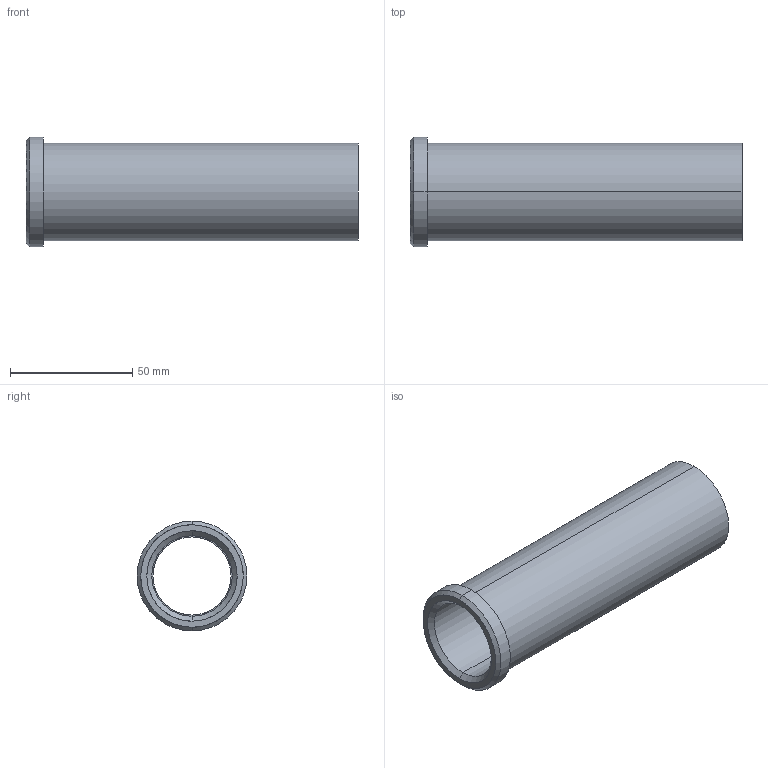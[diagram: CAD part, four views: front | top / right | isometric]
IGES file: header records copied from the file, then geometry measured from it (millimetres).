
Start section: START RECORD GO HERE.
Global section: file name: 353-32X136.igs; native system: DASSAULT SYSTEMES CATIA V5 R20 - www.3ds.com; preprocessor: CATIA Version 5 Release 20 ; author: Utente; organization: NB04-ASUS; date: 20210512.204940; units: millimetre
Bounding box: 136 x 45 x 45 mm (x, y, z)
Surface area: 32343.1 mm2 (no closed solid volume)
Topology: 0 solids, 0 shells, 18 faces, 116 edges, 116 vertices
Faces by surface type: revolution 14, plane 4
